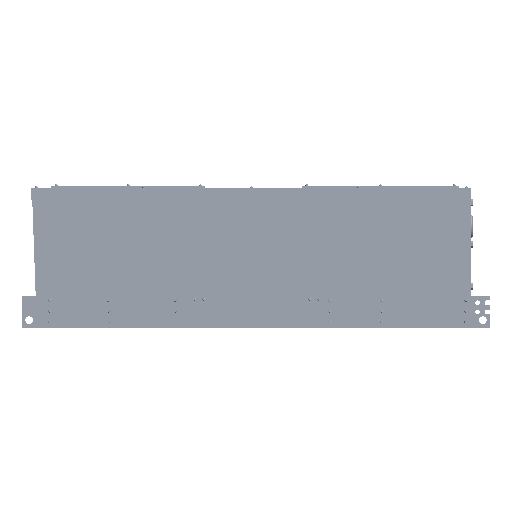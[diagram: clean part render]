
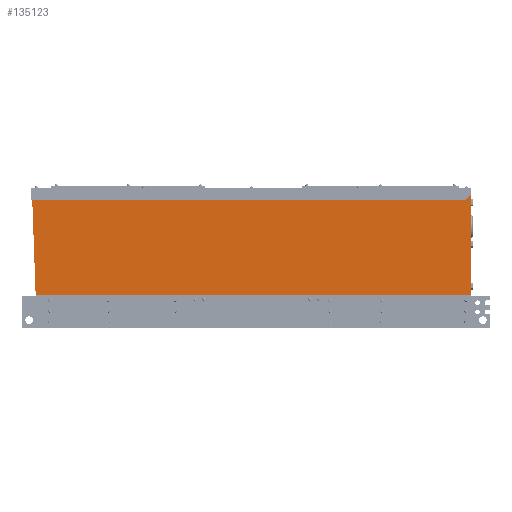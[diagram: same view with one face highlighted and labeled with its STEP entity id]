
A CAD part, left-side view. The second image highlights one B-rep face of the part: STEP entity #135123.
In plain terms, the highlighted planar face has unit normal (-1, 0, 0).
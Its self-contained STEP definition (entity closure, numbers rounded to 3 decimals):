
#21622=DIRECTION('',(0.,0.,1.));
#21623=VECTOR('',#21622,338.4);
#21624=CARTESIAN_POINT('',(-208.,0.,0.));
#21625=LINE('',#21624,#21623);
#46217=DIRECTION('',(0.,-1.,0.));
#46218=VECTOR('',#46217,1416.);
#46219=CARTESIAN_POINT('',(-208.,1416.,338.4));
#46220=LINE('',#46219,#46218);
#46345=DIRECTION('',(0.,0.,1.));
#46346=VECTOR('',#46345,2.3);
#46347=CARTESIAN_POINT('',(-208.,1404.,0.));
#46348=LINE('',#46347,#46346);
#46349=DIRECTION('',(0.,-0.036,-0.999));
#46350=VECTOR('',#46349,334.016);
#46351=CARTESIAN_POINT('',(-208.,1416.,336.1));
#46352=LINE('',#46351,#46350);
#46353=DIRECTION('',(0.,0.,1.));
#46354=VECTOR('',#46353,2.3);
#46355=CARTESIAN_POINT('',(-208.,1416.,336.1));
#46356=LINE('',#46355,#46354);
#46365=DIRECTION('',(0.,1.,0.));
#46366=VECTOR('',#46365,1404.);
#46367=CARTESIAN_POINT('',(-208.,0.,0.));
#46368=LINE('',#46367,#46366);
#54085=CARTESIAN_POINT('',(-208.,0.,338.4));
#54087=VERTEX_POINT('',#54085);
#54091=CARTESIAN_POINT('',(-208.,1416.,338.4));
#54092=VERTEX_POINT('',#54091);
#54233=CARTESIAN_POINT('',(-208.,1416.,336.1));
#54234=VERTEX_POINT('',#54233);
#54235=CARTESIAN_POINT('',(-208.,1404.,2.3));
#54236=VERTEX_POINT('',#54235);
#68084=CARTESIAN_POINT('',(-208.,0.,0.));
#68085=CARTESIAN_POINT('',(-208.,1404.,0.));
#68086=VERTEX_POINT('',#68084);
#68087=VERTEX_POINT('',#68085);
#135106=CARTESIAN_POINT('',(-208.,1416.,0.));
#135107=DIRECTION('',(-1.,0.,0.));
#135108=DIRECTION('',(0.,-1.,0.));
#135109=AXIS2_PLACEMENT_3D('',#135106,#135107,#135108);
#135110=PLANE('',#135109);
#135112=ORIENTED_EDGE('',*,*,#135111,.T.);
#135114=ORIENTED_EDGE('',*,*,#135113,.T.);
#135116=ORIENTED_EDGE('',*,*,#135115,.F.);
#135118=ORIENTED_EDGE('',*,*,#135117,.T.);
#135119=ORIENTED_EDGE('',*,*,#135029,.T.);
#135120=ORIENTED_EDGE('',*,*,#99290,.F.);
#135121=EDGE_LOOP('',(#135112,#135114,#135116,#135118,#135119,#135120));
#135122=FACE_OUTER_BOUND('',#135121,.F.);
#135123=ADVANCED_FACE('',(#135122),#135110,.T.);
#99290=EDGE_CURVE('',#68086,#54087,#21625,.T.);
#135029=EDGE_CURVE('',#54092,#54087,#46220,.T.);
#135111=EDGE_CURVE('',#68086,#68087,#46368,.T.);
#135113=EDGE_CURVE('',#68087,#54236,#46348,.T.);
#135115=EDGE_CURVE('',#54234,#54236,#46352,.T.);
#135117=EDGE_CURVE('',#54234,#54092,#46356,.T.);
